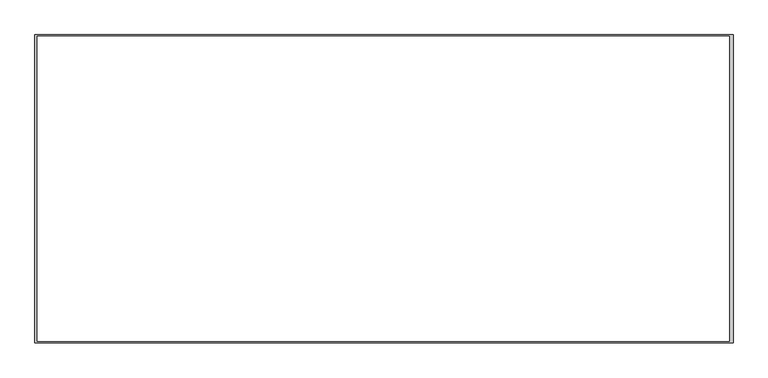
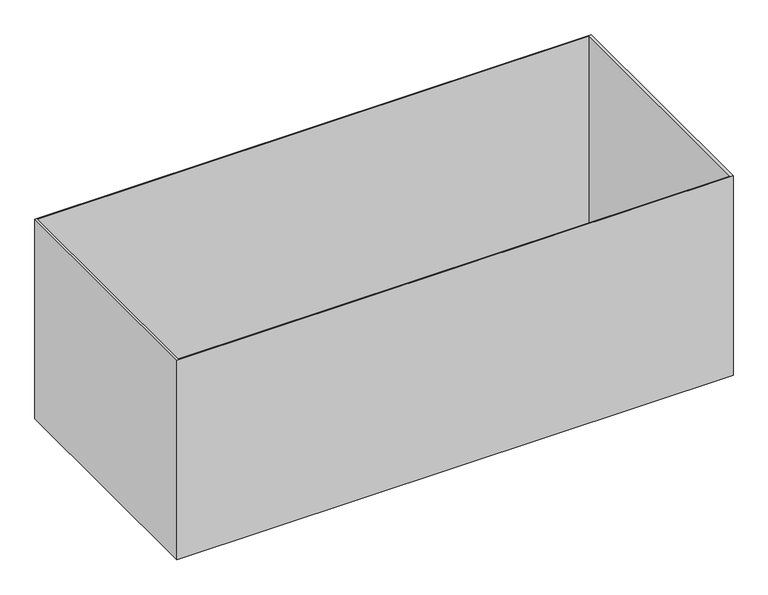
"""IFC4 building model written with IfcOpenShell, lengths in millimetres: beam geometry, Insulation_config1 : Insulation_config1."""

from ifc_helpers import new_model, si_unit, frame, origin, place, context, project, spatial, polyline, outline, extrude, source, transform, mapped, element, save


def beam_a0ba30f1(model_context):
    return source(origin(), model_context, "Body", "SweptSolid", [
        extrude(outline(polyline([(8208.5137023, 3155.6835288), (8208.5137023, -139.1589517), (750.8627258, -139.1589517), (750.8627258, 3155.6835288), (8208.5137023, 3155.6835288)]), holes=[polyline([(8168.8840799, -121.9334634), (8168.8840799, 3141.4580405), (777.4882141, 3141.4580405), (777.4882141, -121.9334634), (8168.8840799, -121.9334634)])]), frame((0.0, 0.0, 424.0), z_axis=(0.0, 0.0, 1.0), x_axis=(1.0, 0.0, 0.0)), (0.0, 0.0, 1.0), 2828.0),
    ])


if __name__ == "__main__":
    model = new_model("IFC4")
    model_context = context("Model", 3, world=origin())
    ifc_project = project(units=[si_unit("LENGTHUNIT", "METRE", prefix="MILLI")], contexts=[model_context])
    site = spatial("IfcSite", under=ifc_project)
    building = spatial("IfcBuilding", under=site)
    placement = place(None, origin())
    beam_shape = beam_a0ba30f1(model_context)
    element("IfcBeam", 1, ObjectType="Insulation_config1 : Insulation_config1", at=placement, inside=building, context=model_context, shape_type="MappedRepresentation", body=[
        mapped(beam_shape, transform((0.0, 0.0, 0.0), x_axis=(1.0, 0.0, 0.0), y_axis=(0.0, 1.0, 0.0), z_axis=(0.0, 0.0, 1.0))),
    ])
    save(model, "model.ifc")
